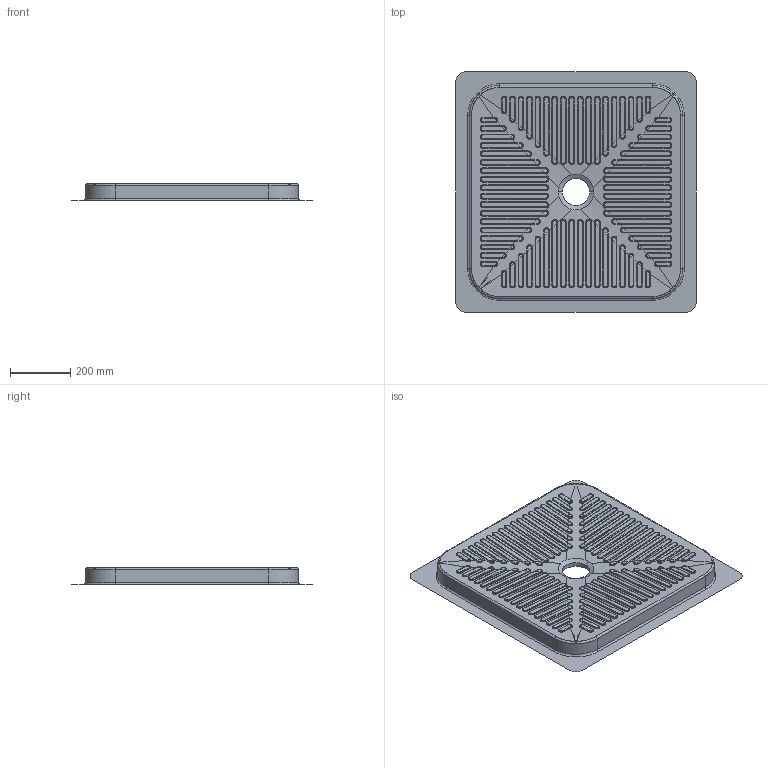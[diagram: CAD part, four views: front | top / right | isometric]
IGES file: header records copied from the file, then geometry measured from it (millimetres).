
Start section: START RECORD GO HERE.
Global section: file name: 4012_3D.igs; native system: DASSAULT SYSTEMES CATIA V5 R19 - www.3ds.com; preprocessor: CATIA Version 5 Release 19 SP 5 ; author: gioge; organization: LAPTOP-G94B6G74; date: 20201024.092547; units: millimetre
Bounding box: 800 x 800 x 55.48 mm (x, y, z)
Surface area: 820028.4 mm2 (no closed solid volume)
Topology: 0 solids, 0 shells, 1360 faces, 6358 edges, 6363 vertices
Faces by surface type: bspline 1148, revolution 142, plane 70
